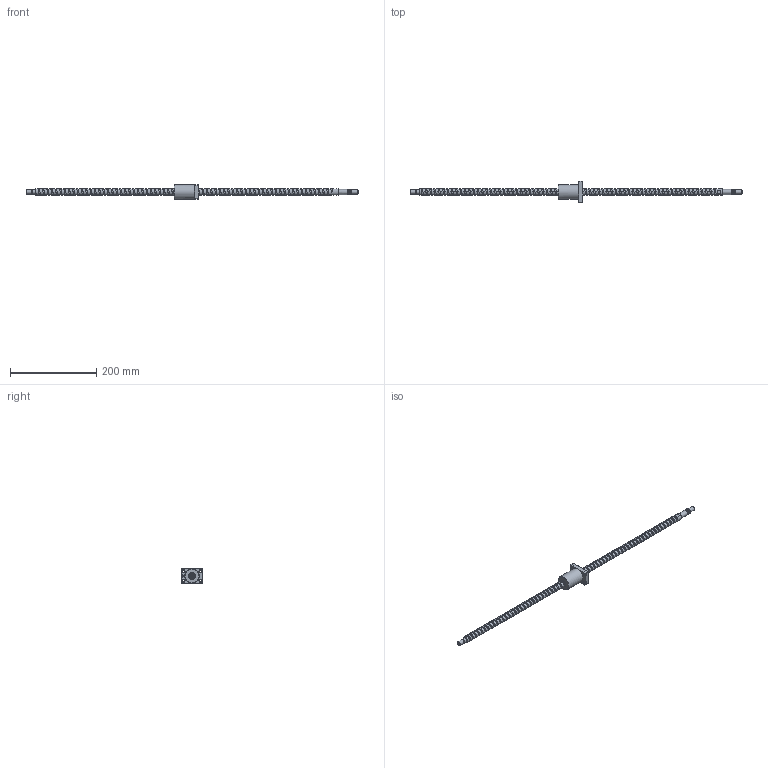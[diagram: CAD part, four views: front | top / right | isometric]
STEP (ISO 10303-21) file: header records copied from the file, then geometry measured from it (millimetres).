
FILE_DESCRIPTION (( 'STEP AP203' ), '1' );
FILE_NAME ('XSVR01510B1DGC5-771-P1.step', '2024-06-03T05:10:50', ( '' ), ( '' ), 'SwSTEP 2.0', 'SolidWorks 2022', '' );
FILE_SCHEMA (( 'CONFIG_CONTROL_DESIGN' ));
Length unit declared in the file: millimetre
Products named in the file (1): XSVR01510B1DGC5-771-P1
Bounding box: 771 x 50 x 34 mm (x, y, z)
Volume: 165252.8 mm3; surface area: 52542.7 mm2
Topology: 2 solids, 2 shells, 199 faces, 545 edges, 356 vertices
Faces by surface type: cylinder 122, plane 43, cone 15, bspline 10, torus 9
Full cylindrical faces by diameter (mm): 4 x1, 4.2 x15, 5 x6, 5.5 x4, 9.5 x4, 9.6 x1, 10 x3, 12 x9, 15 x69, 16.7 x1, 34 x1
Entity records: 20816 total; most frequent: CARTESIAN_POINT 18692, ORIENTED_EDGE 402, DIRECTION 391, EDGE_CURVE 201, AXIS2_PLACEMENT_3D 168, EDGE_LOOP 153, VERTEX_POINT 146, FACE_OUTER_BOUND 120
